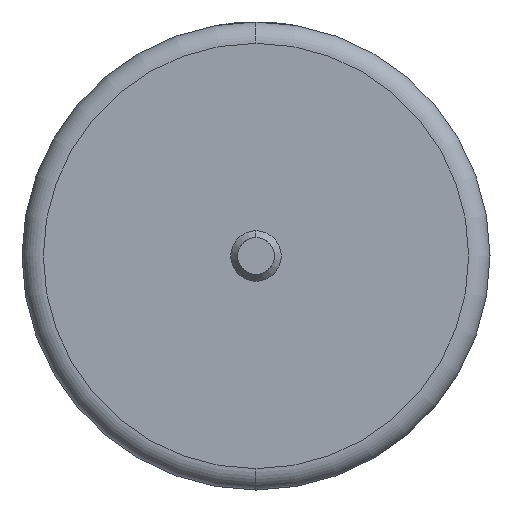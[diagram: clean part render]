
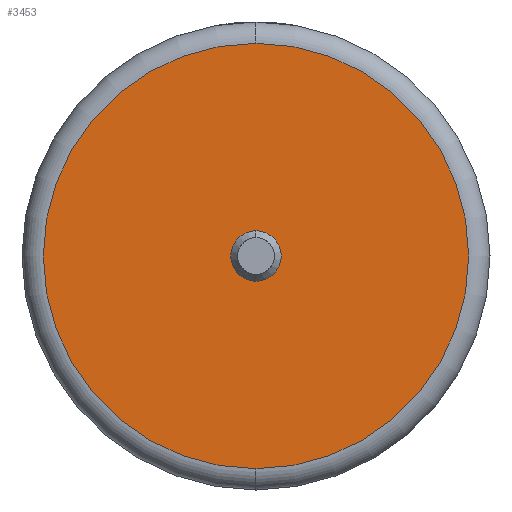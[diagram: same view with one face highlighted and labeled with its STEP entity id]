
A CAD part, left-side view. The second image highlights one B-rep face of the part: STEP entity #3453.
In plain terms, the highlighted planar face has unit normal (-1, 0, 0).
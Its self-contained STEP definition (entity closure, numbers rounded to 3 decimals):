
#28 = DIRECTION ( 'NONE',  ( 0., 0., 1. ) ) ;
#49 = CARTESIAN_POINT ( 'NONE',  ( 0., 0., 0.473 ) ) ;
#161 = ORIENTED_EDGE ( 'NONE', *, *, #1841, .F. ) ;
#166 = CARTESIAN_POINT ( 'NONE',  ( 0., 0., 0. ) ) ;
#319 = VERTEX_POINT ( 'NONE', #49 ) ;
#406 = ORIENTED_EDGE ( 'NONE', *, *, #2602, .T. ) ;
#419 = AXIS2_PLACEMENT_3D ( 'NONE', #648, #2992, #976 ) ;
#648 = CARTESIAN_POINT ( 'NONE',  ( 0., 0., 0. ) ) ;
#669 = DIRECTION ( 'NONE',  ( 0., 0., 1. ) ) ;
#976 = DIRECTION ( 'NONE',  ( 0., 0., -1. ) ) ;
#1004 = CARTESIAN_POINT ( 'NONE',  ( 0., 0., 0. ) ) ;
#1108 = VERTEX_POINT ( 'NONE', #1180 ) ;
#1180 = CARTESIAN_POINT ( 'NONE',  ( 0., 0., 3.995 ) ) ;
#1298 = ORIENTED_EDGE ( 'NONE', *, *, #3596, .F. ) ;
#1442 = VERTEX_POINT ( 'NONE', #1634 ) ;
#1610 = CIRCLE ( 'NONE', #419, 3.995 ) ;
#1634 = CARTESIAN_POINT ( 'NONE',  ( 0., 0., -0.473 ) ) ;
#1841 = EDGE_CURVE ( 'NONE', #319, #1442, #2082, .T. ) ;
#1859 = AXIS2_PLACEMENT_3D ( 'NONE', #1004, #3728, #669 ) ;
#1948 = AXIS2_PLACEMENT_3D ( 'NONE', #4121, #2469, #28 ) ;
#2057 = DIRECTION ( 'NONE',  ( 1., 0., 0. ) ) ;
#2071 = CARTESIAN_POINT ( 'NONE',  ( 0., 0., 0. ) ) ;
#2082 = CIRCLE ( 'NONE', #1859, 0.473 ) ;
#2167 = CIRCLE ( 'NONE', #3733, 3.995 ) ;
#2199 = DIRECTION ( 'NONE',  ( 0., 0., -1. ) ) ;
#2299 = ORIENTED_EDGE ( 'NONE', *, *, #4256, .T. ) ;
#2469 = DIRECTION ( 'NONE',  ( -1., 0., 0. ) ) ;
#2602 = EDGE_CURVE ( 'NONE', #4112, #1108, #1610, .T. ) ;
#2858 = CARTESIAN_POINT ( 'NONE',  ( 0., 0., -3.995 ) ) ;
#2992 = DIRECTION ( 'NONE',  ( -1., 0., 0. ) ) ;
#3028 = DIRECTION ( 'NONE',  ( 0., 0., -1. ) ) ;
#3334 = EDGE_LOOP ( 'NONE', ( #406, #2299 ) ) ;
#3453 = ADVANCED_FACE ( 'NONE', ( #4250, #3701 ), #3695, .F. ) ;
#3596 = EDGE_CURVE ( 'NONE', #1442, #319, #3812, .T. ) ;
#3695 = PLANE ( 'NONE',  #4012 ) ;
#3701 = FACE_BOUND ( 'NONE', #3941, .T. ) ;
#3728 = DIRECTION ( 'NONE',  ( -1., 0., 0. ) ) ;
#3733 = AXIS2_PLACEMENT_3D ( 'NONE', #166, #4190, #2199 ) ;
#3812 = CIRCLE ( 'NONE', #1948, 0.473 ) ;
#3941 = EDGE_LOOP ( 'NONE', ( #1298, #161 ) ) ;
#4012 = AXIS2_PLACEMENT_3D ( 'NONE', #2071, #2057, #3028 ) ;
#4112 = VERTEX_POINT ( 'NONE', #2858 ) ;
#4121 = CARTESIAN_POINT ( 'NONE',  ( 0., 0., 0. ) ) ;
#4190 = DIRECTION ( 'NONE',  ( -1., 0., 0. ) ) ;
#4250 = FACE_OUTER_BOUND ( 'NONE', #3334, .T. ) ;
#4256 = EDGE_CURVE ( 'NONE', #1108, #4112, #2167, .T. ) ;
